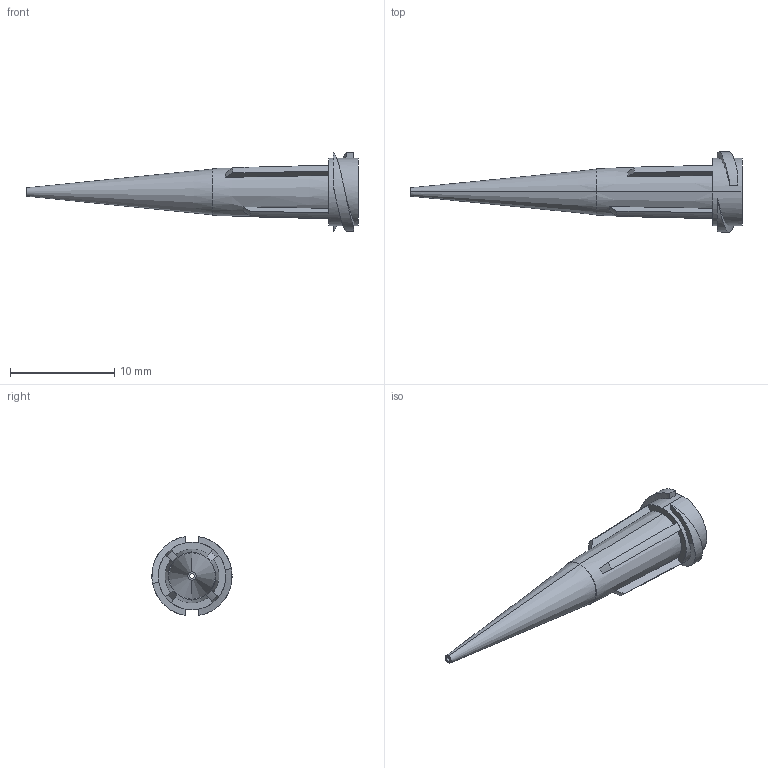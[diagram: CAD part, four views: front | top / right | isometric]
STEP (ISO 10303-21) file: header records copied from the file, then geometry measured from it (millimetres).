
FILE_DESCRIPTION (( 'STEP AP214' ), '1' );
FILE_NAME ('8001273_CUS.STEP', '2021-10-12T11:45:44', ( '' ), ( '' ), 'SwSTEP 2.0', 'SolidWorks 2020', '' );
FILE_SCHEMA (( 'AUTOMOTIVE_DESIGN' ));
Length unit declared in the file: millimetre
Products named in the file (1): 8001273_CUS
Bounding box: 31.9 x 7.69 x 7.59 mm (x, y, z)
Volume: 228.8 mm3; surface area: 769.3 mm2
Topology: 3 solids, 3 shells, 55 faces, 126 edges, 82 vertices
Faces by surface type: plane 25, cone 20, bspline 6, cylinder 4
Entity records: 1824 total; most frequent: CARTESIAN_POINT 554, DIRECTION 254, ORIENTED_EDGE 252, EDGE_CURVE 126, AXIS2_PLACEMENT_3D 100, VERTEX_POINT 82, EDGE_LOOP 62, ADVANCED_FACE 55
